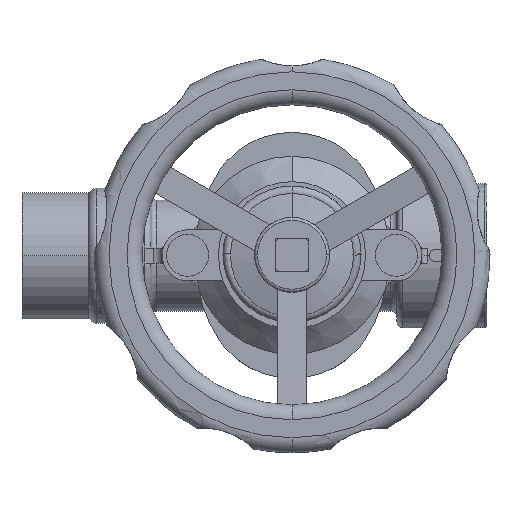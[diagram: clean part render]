
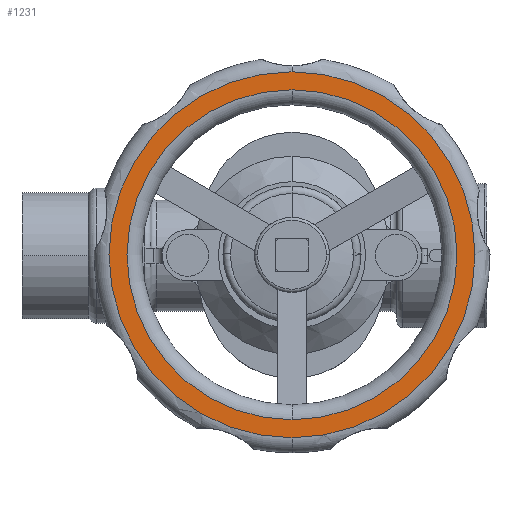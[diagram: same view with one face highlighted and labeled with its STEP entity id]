
A CAD part, top view. The second image highlights one B-rep face of the part: STEP entity #1231.
In plain terms, the highlighted planar face has unit normal (0, 0, 1).
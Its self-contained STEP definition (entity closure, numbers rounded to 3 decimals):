
#1231=ADVANCED_FACE('',(#2381,#2382),#2383,.T.);
#2381=FACE_OUTER_BOUND('',#3722,.T.);
#2382=FACE_BOUND('',#3723,.T.);
#2383=PLANE('',#3724);
#3722=EDGE_LOOP('',(#6131,#6132,#6133));
#3723=EDGE_LOOP('',(#6134,#6135,#6136));
#3724=AXIS2_PLACEMENT_3D('',#6137,#6138,#6139);
#6131=ORIENTED_EDGE('',*,*,#7990,.F.);
#6132=ORIENTED_EDGE('',*,*,#7989,.F.);
#6133=ORIENTED_EDGE('',*,*,#8302,.F.);
#6134=ORIENTED_EDGE('',*,*,#8115,.T.);
#6135=ORIENTED_EDGE('',*,*,#7350,.T.);
#6136=ORIENTED_EDGE('',*,*,#8116,.T.);
#6137=CARTESIAN_POINT('',(32.0,0.,170.0));
#6138=DIRECTION('',(0.,0.,1.0));
#6139=DIRECTION('',(1.0,0.,0.));
#7350=EDGE_CURVE('',#8604,#8610,#8612,.T.);
#7989=EDGE_CURVE('',#9663,#9665,#9666,.T.);
#7990=EDGE_CURVE('',#9665,#9648,#9667,.T.);
#8115=EDGE_CURVE('',#9848,#8604,#9849,.T.);
#8116=EDGE_CURVE('',#8610,#9848,#9850,.T.);
#8302=EDGE_CURVE('',#9648,#9663,#10089,.T.);
#8604=VERTEX_POINT('',#10427);
#8610=VERTEX_POINT('',#10433);
#8612=CIRCLE('',#10435,55.0);
#9648=VERTEX_POINT('',#11840);
#9663=VERTEX_POINT('',#11936);
#9665=VERTEX_POINT('',#11938);
#9666=CIRCLE('',#11939,61.0);
#9667=CIRCLE('',#11940,61.0);
#9848=VERTEX_POINT('',#12150);
#9849=CIRCLE('',#12151,55.0);
#9850=CIRCLE('',#12152,55.0);
#10089=CIRCLE('',#12494,61.0);
#10427=CARTESIAN_POINT('',(90.0,55.0,170.0));
#10433=CARTESIAN_POINT('',(90.0,-55.0,170.0));
#10435=AXIS2_PLACEMENT_3D('',#12903,#12904,#12905);
#11840=CARTESIAN_POINT('',(90.0,61.0,170.0));
#11936=CARTESIAN_POINT('',(90.0,-61.0,170.0));
#11938=CARTESIAN_POINT('',(29.0,0.,170.0));
#11939=AXIS2_PLACEMENT_3D('',#13973,#13974,#13975);
#11940=AXIS2_PLACEMENT_3D('',#13976,#13977,#13978);
#12150=CARTESIAN_POINT('',(35.0,0.,170.0));
#12151=AXIS2_PLACEMENT_3D('',#14197,#14198,#14199);
#12152=AXIS2_PLACEMENT_3D('',#14200,#14201,#14202);
#12494=AXIS2_PLACEMENT_3D('',#14405,#14406,#14407);
#12903=CARTESIAN_POINT('',(90.0,0.,170.0));
#12904=DIRECTION('',(0.,0.,-1.0));
#12905=DIRECTION('',(-1.0,0.,0.));
#13973=CARTESIAN_POINT('',(90.0,0.,170.0));
#13974=DIRECTION('',(0.,0.,-1.0));
#13975=DIRECTION('',(-1.0,0.,0.));
#13976=CARTESIAN_POINT('',(90.0,0.,170.0));
#13977=DIRECTION('',(0.,0.,-1.0));
#13978=DIRECTION('',(-1.0,0.,0.));
#14197=CARTESIAN_POINT('',(90.0,0.,170.0));
#14198=DIRECTION('',(0.,0.,-1.0));
#14199=DIRECTION('',(-1.0,0.,0.));
#14200=CARTESIAN_POINT('',(90.0,0.,170.0));
#14201=DIRECTION('',(0.,0.,-1.0));
#14202=DIRECTION('',(-1.0,0.,0.));
#14405=CARTESIAN_POINT('',(90.0,0.,170.0));
#14406=DIRECTION('',(0.,0.,-1.0));
#14407=DIRECTION('',(-1.0,0.,0.));
